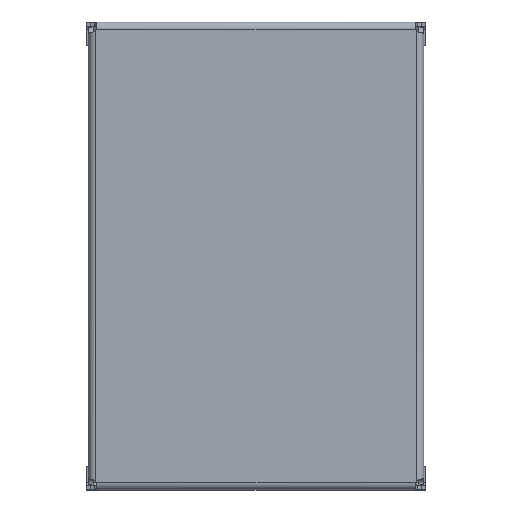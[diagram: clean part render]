
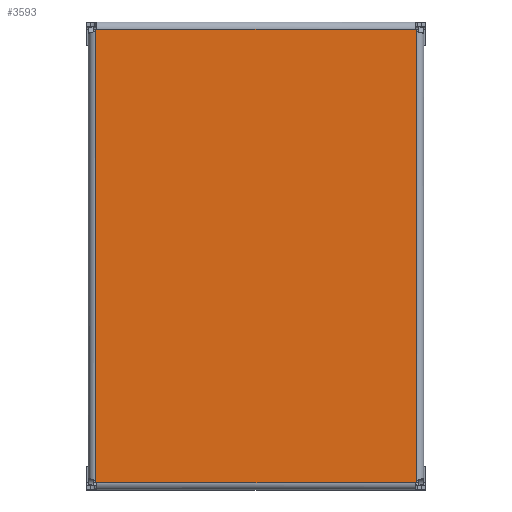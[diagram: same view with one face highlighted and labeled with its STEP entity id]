
A CAD part, top view. The second image highlights one B-rep face of the part: STEP entity #3593.
In plain terms, the highlighted planar face has unit normal (0, 0, 1).
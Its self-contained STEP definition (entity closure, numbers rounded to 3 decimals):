
#153 = VERTEX_POINT ( 'NONE', #4796 ) ;
#233 = AXIS2_PLACEMENT_3D ( 'NONE', #2231, #385, #3546 ) ;
#311 = CARTESIAN_POINT ( 'NONE',  ( 140.3, 3.875, 0. ) ) ;
#340 = VERTEX_POINT ( 'NONE', #3004 ) ;
#360 = CIRCLE ( 'NONE', #233, 2.5 ) ;
#385 = DIRECTION ( 'NONE',  ( 0., 0., -1. ) ) ;
#409 = CARTESIAN_POINT ( 'NONE',  ( 3.7, 196., 0. ) ) ;
#415 = LINE ( 'NONE', #5329, #4353 ) ;
#456 = DIRECTION ( 'NONE',  ( 1., 0., 0. ) ) ;
#530 = ORIENTED_EDGE ( 'NONE', *, *, #1092, .T. ) ;
#732 = CIRCLE ( 'NONE', #860, 2.5 ) ;
#776 = CARTESIAN_POINT ( 'NONE',  ( 139.815, 3., 0. ) ) ;
#860 = AXIS2_PLACEMENT_3D ( 'NONE', #3083, #5471, #4276 ) ;
#946 = ORIENTED_EDGE ( 'NONE', *, *, #6182, .T. ) ;
#965 = DIRECTION ( 'NONE',  ( 0., -1., 0. ) ) ;
#1042 = FACE_OUTER_BOUND ( 'NONE', #2070, .T. ) ;
#1044 = DIRECTION ( 'NONE',  ( -1., 0., 0. ) ) ;
#1092 = EDGE_CURVE ( 'NONE', #5815, #2424, #415, .T. ) ;
#1265 = ORIENTED_EDGE ( 'NONE', *, *, #7641, .T. ) ;
#1882 = AXIS2_PLACEMENT_3D ( 'NONE', #2755, #2669, #2630 ) ;
#1948 = DIRECTION ( 'NONE',  ( 0., 1., 0. ) ) ;
#2067 = ORIENTED_EDGE ( 'NONE', *, *, #6714, .T. ) ;
#2070 = EDGE_LOOP ( 'NONE', ( #7327, #530, #4782, #1265, #946, #4385, #2067, #7335 ) ) ;
#2225 = AXIS2_PLACEMENT_3D ( 'NONE', #2300, #3456, #5851 ) ;
#2231 = CARTESIAN_POINT ( 'NONE',  ( 142.2, 196.75, 0. ) ) ;
#2300 = CARTESIAN_POINT ( 'NONE',  ( 0., 199., 0. ) ) ;
#2424 = VERTEX_POINT ( 'NONE', #7583 ) ;
#2512 = VECTOR ( 'NONE', #965, 1000. ) ;
#2630 = DIRECTION ( 'NONE',  ( 1., 0., 0. ) ) ;
#2669 = DIRECTION ( 'NONE',  ( 0., 0., -1. ) ) ;
#2691 = CARTESIAN_POINT ( 'NONE',  ( 140.3, 3., 0. ) ) ;
#2755 = CARTESIAN_POINT ( 'NONE',  ( 142.2, 2.25, 0. ) ) ;
#2799 = DIRECTION ( 'NONE',  ( 1., 0., 0. ) ) ;
#3004 = CARTESIAN_POINT ( 'NONE',  ( 3.7, 3.875, 0. ) ) ;
#3083 = CARTESIAN_POINT ( 'NONE',  ( 1.8, 2.25, 0. ) ) ;
#3120 = VECTOR ( 'NONE', #1948, 1000. ) ;
#3169 = CARTESIAN_POINT ( 'NONE',  ( 139.815, 196., 0. ) ) ;
#3456 = DIRECTION ( 'NONE',  ( 0., 0., -1. ) ) ;
#3463 = DIRECTION ( 'NONE',  ( 0., 0., -1. ) ) ;
#3546 = DIRECTION ( 'NONE',  ( -1., 0., 0. ) ) ;
#3593 = ADVANCED_FACE ( 'NONE', ( #1042 ), #7662, .F. ) ;
#3851 = EDGE_CURVE ( 'NONE', #7521, #5576, #5723, .T. ) ;
#3918 = LINE ( 'NONE', #5790, #7184 ) ;
#3986 = VERTEX_POINT ( 'NONE', #776 ) ;
#4109 = VERTEX_POINT ( 'NONE', #6061 ) ;
#4276 = DIRECTION ( 'NONE',  ( -1., 0., 0. ) ) ;
#4288 = EDGE_CURVE ( 'NONE', #2424, #153, #5024, .T. ) ;
#4353 = VECTOR ( 'NONE', #1044, 1000. ) ;
#4385 = ORIENTED_EDGE ( 'NONE', *, *, #6332, .T. ) ;
#4690 = CARTESIAN_POINT ( 'NONE',  ( 1.8, 196.75, 0. ) ) ;
#4782 = ORIENTED_EDGE ( 'NONE', *, *, #4288, .T. ) ;
#4796 = CARTESIAN_POINT ( 'NONE',  ( 3.7, 195.125, 0. ) ) ;
#5024 = CIRCLE ( 'NONE', #6423, 2.5 ) ;
#5329 = CARTESIAN_POINT ( 'NONE',  ( 144., 196., 0. ) ) ;
#5471 = DIRECTION ( 'NONE',  ( 0., 0., -1. ) ) ;
#5576 = VERTEX_POINT ( 'NONE', #6917 ) ;
#5681 = CIRCLE ( 'NONE', #1882, 2.5 ) ;
#5723 = LINE ( 'NONE', #2691, #3120 ) ;
#5790 = CARTESIAN_POINT ( 'NONE',  ( 0., 3., 0. ) ) ;
#5815 = VERTEX_POINT ( 'NONE', #3169 ) ;
#5851 = DIRECTION ( 'NONE',  ( -1., 0., 0. ) ) ;
#6061 = CARTESIAN_POINT ( 'NONE',  ( 4.185, 3., 0. ) ) ;
#6182 = EDGE_CURVE ( 'NONE', #340, #4109, #732, .T. ) ;
#6332 = EDGE_CURVE ( 'NONE', #4109, #3986, #3918, .T. ) ;
#6355 = LINE ( 'NONE', #409, #2512 ) ;
#6423 = AXIS2_PLACEMENT_3D ( 'NONE', #4690, #3463, #456 ) ;
#6714 = EDGE_CURVE ( 'NONE', #3986, #7521, #5681, .T. ) ;
#6917 = CARTESIAN_POINT ( 'NONE',  ( 140.3, 195.125, 0. ) ) ;
#6930 = EDGE_CURVE ( 'NONE', #5576, #5815, #360, .T. ) ;
#7184 = VECTOR ( 'NONE', #2799, 1000. ) ;
#7327 = ORIENTED_EDGE ( 'NONE', *, *, #6930, .T. ) ;
#7335 = ORIENTED_EDGE ( 'NONE', *, *, #3851, .T. ) ;
#7521 = VERTEX_POINT ( 'NONE', #311 ) ;
#7583 = CARTESIAN_POINT ( 'NONE',  ( 4.185, 196., 0. ) ) ;
#7641 = EDGE_CURVE ( 'NONE', #153, #340, #6355, .T. ) ;
#7662 = PLANE ( 'NONE',  #2225 ) ;
